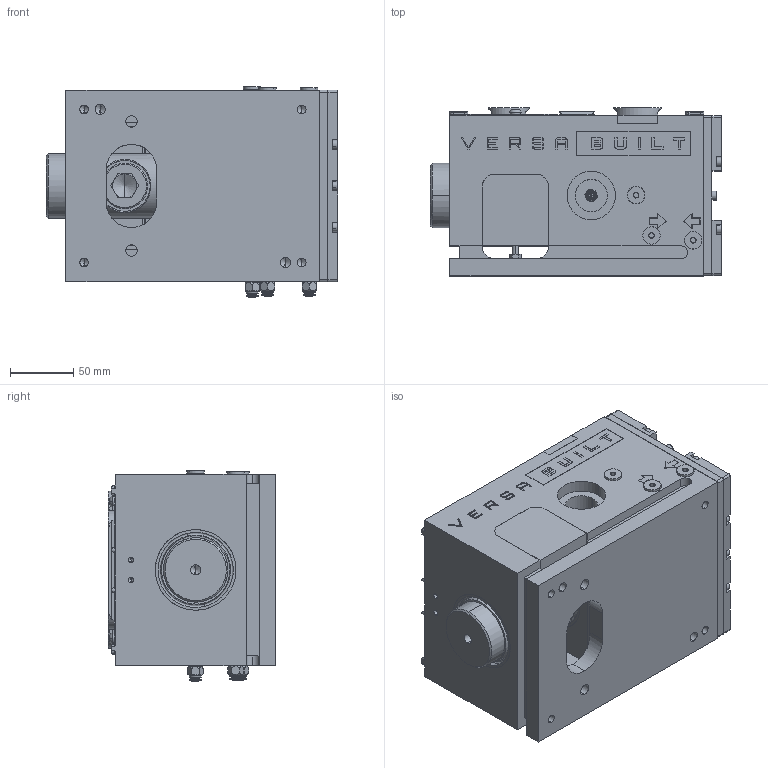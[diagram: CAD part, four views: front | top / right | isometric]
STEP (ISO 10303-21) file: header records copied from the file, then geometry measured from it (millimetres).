
FILE_DESCRIPTION (( 'STEP AP203' ), '1' );
FILE_NAME ('VERSABUILT MULTIGRIP VISE 4000 - STANDARD - 2025-05-14.STEP', '2025-05-14T20:48:58', ( '' ), ( '' ), 'SwSTEP 2.0', 'SolidWorks 2019', '' );
FILE_SCHEMA (( 'CONFIG_CONTROL_DESIGN' ));
Length unit declared in the file: inch
Products named in the file (34): M24x3.0 SHCS_M24x3.0 SHCS x 40; 5008582_5008314 - MULTIGRIP FJ VISE PROFILE; VERSABUILT MULTIGRIP VISE 4000 - STANDARD - 2025-05-14; M10x1.5 SHCS_SHCS M10-1.5 x 25; 5010591_94669A031; 5008590_MG FJ VISE - END PLATE FACE SEAL; 5008662_Default Configuration; M4x0.7 SHCS_SHCS M4-0.7 x 16; M5 DOWEL PIN_DP M5 X 18mm; 5010104_01 - BOLT THRU DOVETAIL; M8 DOWEL PIN_M8 DOWEL PIN x 20mm; M5x0.8 FHCS_M5x0.8 FHCS x 8mm; 5008611_As Machined; 5010583_Default Configuration; M8 SEALING WASHER_93303A103; M8x1.25 SHCS_SHCS M8-1.25 x 16; M8x1.00 SHCS_M8x1.00 SHCS x 12; 5001681_51495K182; 5008655_As Machined; 5008713_Default Configuration; M5 DOWEL PIN_DP M5 X 16mm; M5X0.80 BHCS_BHCS M5x0.8 x 10mm; 5010570_Default Configuration; 5008737_Default Configuration; 5013217_1095K111; 5008073_1504N23; M5x0.8 HHCS_HHCS M5x0.8x16-C; 5010105_Default Configuration; 5008734_Default Configuration; 5008663_91259A716; 5008658_Default Configuration; 5008505_9452K24; 5008654_45-DEG - WITHOUT TOE CLAMPS; M4x0.7 SHCS_SHCS M4-0.7 x 12
Assembly tree (63 placements, depth 3):
  VERSABUILT MULTIGRIP VISE 4000 - STANDARD - 2025-05-14
    5008654_45-DEG - WITHOUT TOE CLAMPS
      5008655_As Machined
      5008658_Default Configuration
      5008663_91259A716
      5008662_Default Configuration
      5008734_Default Configuration
      5008713_Default Configuration  x2
      M10x1.5 SHCS_SHCS M10-1.5 x 25  x3
      M4x0.7 SHCS_SHCS M4-0.7 x 16  x8
      M5 DOWEL PIN_DP M5 X 16mm  x2
      M8 SEALING WASHER_93303A103
      M8x1.00 SHCS_M8x1.00 SHCS x 12
      M24x3.0 SHCS_M24x3.0 SHCS x 40
      M8x1.25 SHCS_SHCS M8-1.25 x 16
      5008505_9452K24  x2
      5008582_5008314 - MULTIGRIP FJ VISE PROFILE
      5008590_MG FJ VISE - END PLATE FACE SEAL
      5008073_1504N23  x3
      M4x0.7 SHCS_SHCS M4-0.7 x 12  x8
      M5 DOWEL PIN_DP M5 X 18mm
      5010104_01 - BOLT THRU DOVETAIL
      5010105_Default Configuration
      M5x0.8 FHCS_M5x0.8 FHCS x 8mm  x2
      M8 DOWEL PIN_M8 DOWEL PIN x 20mm  x2
      5008611_As Machined  x3
      5010570_Default Configuration
      5010583_Default Configuration  x2
      M5x0.8 HHCS_HHCS M5x0.8x16-C  x2
      5010591_94669A031  x2
      M5X0.80 BHCS_BHCS M5x0.8 x 10mm  x2
      5001681_51495K182  x3
      5013217_1095K111
  5008737_Default Configuration
Bounding box: 229.36 x 132.27 x 166.02 mm (x, y, z)
Volume: 3292857.3 mm3; surface area: 529891.9 mm2
Topology: 69 solids, 69 shells, 2973 faces, 7144 edges, 4353 vertices
Faces by surface type: plane 1167, cylinder 927, cone 537, torus 277, bspline 59, sphere 6
Entity records: 72277 total; most frequent: CARTESIAN_POINT 18029, DIRECTION 10695, ORIENTED_EDGE 10150, EDGE_CURVE 5075, AXIS2_PLACEMENT_3D 4017, VERTEX_POINT 3190, LINE 2661, VECTOR 2661
